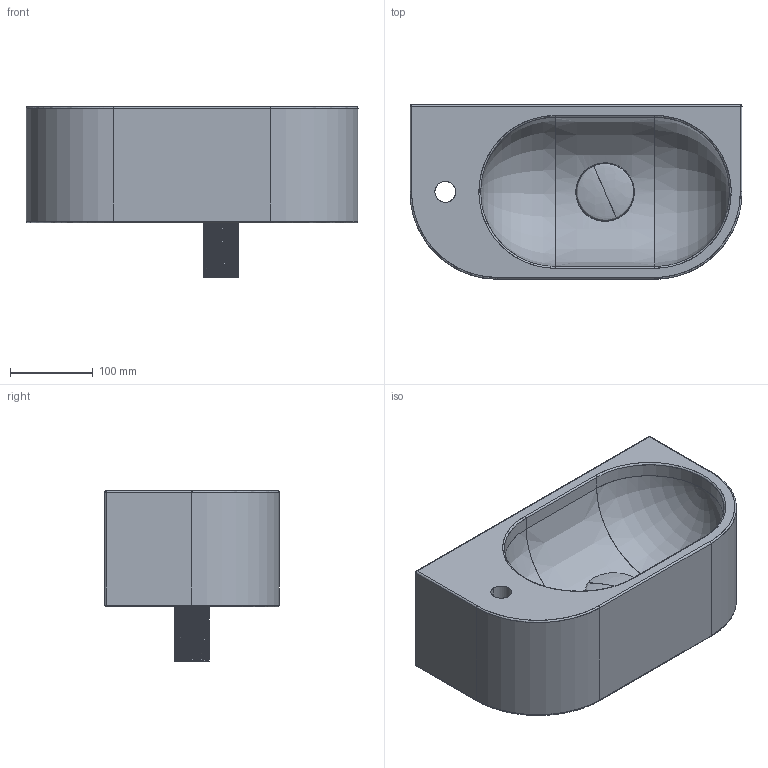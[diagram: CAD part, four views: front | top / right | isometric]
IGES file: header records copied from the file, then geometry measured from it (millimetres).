
Start section: SolidWorks IGES file using analytic representation for surfaces
Global section: file name: C:\Users\PC Lite\Desktop\2D_3D-PACKAGE\PAA-Washbasins-Re-K\Washbasins-Silkstone-RE-IRES-K-00-3D.IGS; native system: SolidWorks 2018; preprocessor: SolidWorks 2018; author: PC Lite; date: 221104.165644; units: millimetre
Bounding box: 400 x 210 x 205.79 mm (x, y, z)
Surface area: 532774.1 mm2 (no closed solid volume)
Topology: 0 solids, 0 shells, 368 faces, 8674 edges, 8659 vertices
Faces by surface type: revolution 247, bspline 121
